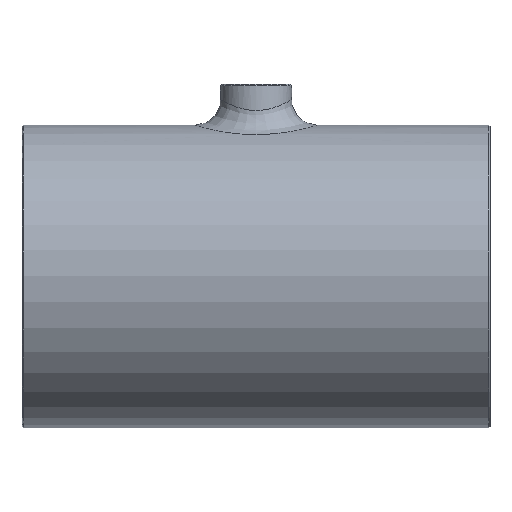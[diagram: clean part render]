
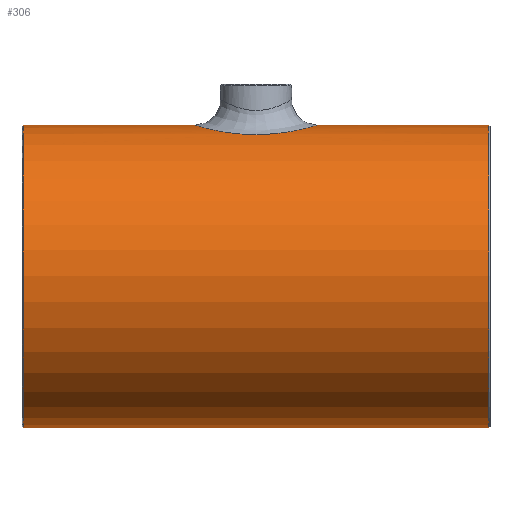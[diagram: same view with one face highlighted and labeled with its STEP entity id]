
A CAD part, top view. The second image highlights one B-rep face of the part: STEP entity #306.
In plain terms, the highlighted cylindrical face has radius 23.45 mm (diameter 46.9 mm), a full revolution.
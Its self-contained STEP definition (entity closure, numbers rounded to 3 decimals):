
#187=CARTESIAN_POINT('',(36.1,23.45,0.));
#188=VERTEX_POINT('',#187);
#189=CARTESIAN_POINT('',(36.1,0.0,0.0));
#190=DIRECTION('',(1.0,0.0,0.0));
#191=DIRECTION('',(0.0,-1.0,0.0));
#192=AXIS2_PLACEMENT_3D('',#189,#190,#191);
#193=CIRCLE('',#192,23.45);
#194=EDGE_CURVE('',#188,#188,#193,.T.);
#230=CARTESIAN_POINT('',(0.0,0.0,0.0));
#231=DIRECTION('',(1.0,0.0,0.0));
#232=DIRECTION('',(0.0,1.0,0.0));
#233=AXIS2_PLACEMENT_3D('',#230,#231,#232);
#234=CYLINDRICAL_SURFACE('',#233,23.45);
#235=CARTESIAN_POINT('',(-36.1,23.45,0.));
#236=VERTEX_POINT('',#235);
#237=CARTESIAN_POINT('',(-36.1,0.0,0.0));
#238=DIRECTION('',(-1.0,0.0,0.0));
#239=DIRECTION('',(0.0,-1.0,0.0));
#240=AXIS2_PLACEMENT_3D('',#237,#238,#239);
#241=CIRCLE('',#240,23.45);
#242=EDGE_CURVE('',#236,#236,#241,.T.);
#243=ORIENTED_EDGE('',*,*,#242,.F.);
#244=EDGE_LOOP('',(#243));
#245=FACE_OUTER_BOUND('',#244,.T.);
#246=CARTESIAN_POINT('',(0.,21.996,8.128));
#247=VERTEX_POINT('',#246);
#248=CARTESIAN_POINT('',(0.,21.996,8.129));
#249=CARTESIAN_POINT('',(0.,21.996,8.129));
#250=CARTESIAN_POINT('',(0.,21.996,8.129));
#251=CARTESIAN_POINT('',(0.,21.996,8.129));
#252=CARTESIAN_POINT('',(0.713,21.996,8.129));
#253=CARTESIAN_POINT('',(1.974,22.042,8.006));
#254=CARTESIAN_POINT('',(3.329,22.174,7.634));
#255=CARTESIAN_POINT('',(4.302,22.298,7.262));
#256=CARTESIAN_POINT('',(5.078,22.416,6.894));
#257=CARTESIAN_POINT('',(6.082,22.596,6.285));
#258=CARTESIAN_POINT('',(6.859,22.761,5.66));
#259=CARTESIAN_POINT('',(7.623,22.938,4.89));
#260=CARTESIAN_POINT('',(8.254,23.096,4.104));
#261=CARTESIAN_POINT('',(8.828,23.252,3.096));
#262=CARTESIAN_POINT('',(9.279,23.38,1.936));
#263=CARTESIAN_POINT('',(9.523,23.452,0.731));
#264=CARTESIAN_POINT('',(9.524,23.453,-0.611));
#265=CARTESIAN_POINT('',(9.311,23.39,-1.817));
#266=CARTESIAN_POINT('',(8.886,23.268,-2.991));
#267=CARTESIAN_POINT('',(8.264,23.099,-4.089));
#268=CARTESIAN_POINT('',(7.468,22.899,-5.085));
#269=CARTESIAN_POINT('',(6.498,22.68,-5.979));
#270=CARTESIAN_POINT('',(5.397,22.467,-6.73));
#271=CARTESIAN_POINT('',(4.168,22.274,-7.341));
#272=CARTESIAN_POINT('',(2.836,22.119,-7.791));
#273=CARTESIAN_POINT('',(1.448,22.02,-8.065));
#274=CARTESIAN_POINT('',(0.001,21.985,-8.16));
#275=CARTESIAN_POINT('',(-1.424,22.019,-8.068));
#276=CARTESIAN_POINT('',(-2.827,22.118,-7.794));
#277=CARTESIAN_POINT('',(-4.16,22.273,-7.344));
#278=CARTESIAN_POINT('',(-5.381,22.464,-6.74));
#279=CARTESIAN_POINT('',(-6.498,22.68,-5.979));
#280=CARTESIAN_POINT('',(-7.457,22.896,-5.096));
#281=CARTESIAN_POINT('',(-8.259,23.098,-4.097));
#282=CARTESIAN_POINT('',(-8.883,23.267,-2.996));
#283=CARTESIAN_POINT('',(-9.377,23.409,-1.643));
#284=CARTESIAN_POINT('',(-9.556,23.462,-0.304));
#285=CARTESIAN_POINT('',(-9.475,23.438,0.913));
#286=CARTESIAN_POINT('',(-9.294,23.385,1.822));
#287=CARTESIAN_POINT('',(-8.992,23.298,2.708));
#288=CARTESIAN_POINT('',(-8.447,23.147,3.827));
#289=CARTESIAN_POINT('',(-7.781,22.975,4.73));
#290=CARTESIAN_POINT('',(-7.093,22.815,5.424));
#291=CARTESIAN_POINT('',(-6.607,22.707,5.862));
#292=CARTESIAN_POINT('',(-5.692,22.519,6.563));
#293=CARTESIAN_POINT('',(-4.477,22.314,7.217));
#294=CARTESIAN_POINT('',(-3.169,22.157,7.682));
#295=CARTESIAN_POINT('',(-1.795,22.035,8.024));
#296=CARTESIAN_POINT('',(-0.713,21.996,8.129));
#297=CARTESIAN_POINT('',(0.,21.996,8.129));
#298=B_SPLINE_CURVE_WITH_KNOTS('',3,(#248,#249,#250,#251,#252,#253,#254,#255,#256,#257,#258,#259,#260,#261,#262,#263,#264,#265,#266,#267,#268,#269,#270,#271,#272,#273,#274,#275,#276,#277,#278,#279,#280,#281,#282,#283,#284,#285,#286,#287,#288,#289,#290,#291,#292,#293,#294,#295,#296,#297),.UNSPECIFIED.,.T.,.U.,(4,3,1,1,1,1,1,1,1,1,1,1,1,1,1,1,1,1,1,1,1,1,1,1,1,1,1,1,1,1,1,1,1,1,1,1,1,1,1,1,1,1,1,1,1,4),(-3.337,-3.337,-3.218,-3.129,-3.099,-3.039,-2.98,-2.89,-2.861,-2.781,-2.702,-2.642,-2.543,-2.463,-2.384,-2.304,-2.225,-2.145,-2.066,-1.987,-1.907,-1.828,-1.748,-1.669,-1.589,-1.51,-1.43,-1.351,-1.271,-1.192,-1.112,-1.033,-0.954,-0.834,-0.775,-0.715,-0.656,-0.596,-0.477,-0.447,-0.417,-0.358,-0.238,-0.179,-0.119,0.),.UNSPECIFIED.);
#299=EDGE_CURVE('',#247,#247,#298,.T.);
#300=ORIENTED_EDGE('',*,*,#299,.F.);
#301=EDGE_LOOP('',(#300));
#302=FACE_BOUND('',#301,.T.);
#303=ORIENTED_EDGE('',*,*,#194,.F.);
#304=EDGE_LOOP('',(#303));
#305=FACE_BOUND('',#304,.T.);
#306=ADVANCED_FACE('',(#245,#302,#305),#234,.T.);
